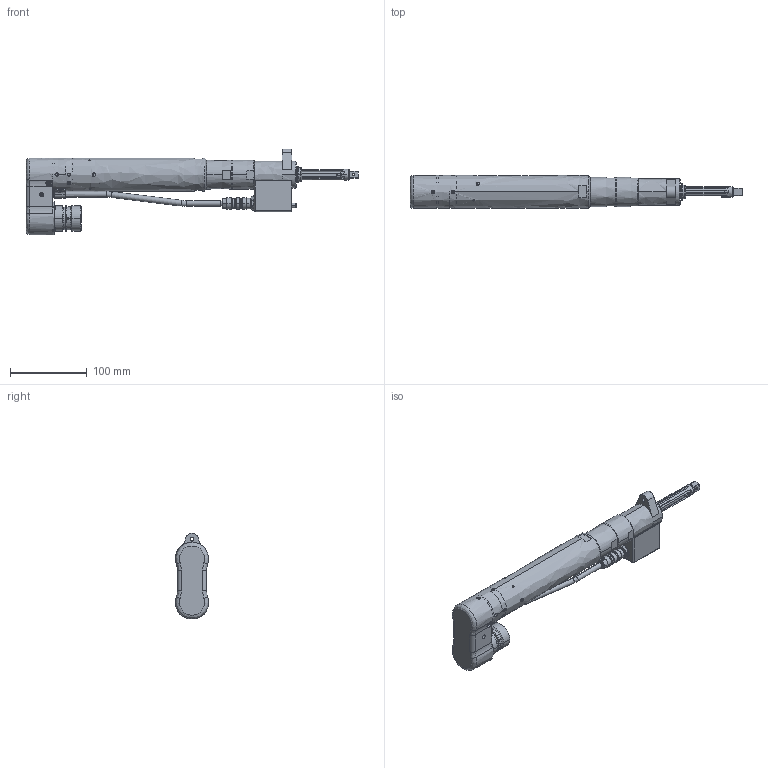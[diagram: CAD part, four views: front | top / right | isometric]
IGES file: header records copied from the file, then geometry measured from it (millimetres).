
Start section:  PTC IGES file: 6151654260_eme38-20j_v2.igs
Global section: file name: 6151654260_eme38-20j_v2.igs; native system: Pro/ENGINEER by Parametric Technology Corporation; preprocessor: 2010330; author: GREEXTADU; organization: Unknown; date: 20120220.135444; units: millimetre
Bounding box: 432.2 x 43 x 111.9 mm (x, y, z)
Volume: 331877.5 mm3; surface area: 132850.1 mm2
Topology: 1 solids, 1 shells, 979 faces, 2491 edges, 1541 vertices
Faces by surface type: revolution 576, bspline 403
